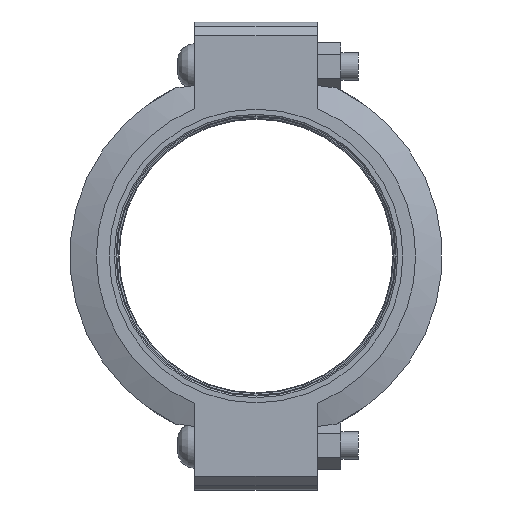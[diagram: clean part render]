
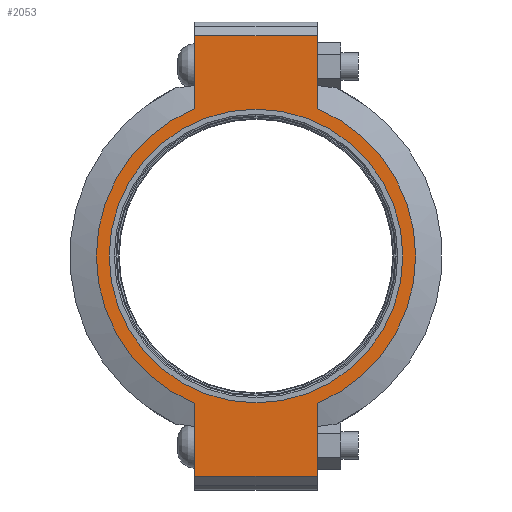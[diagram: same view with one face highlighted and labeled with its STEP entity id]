
A CAD part, left-side view. The second image highlights one B-rep face of the part: STEP entity #2053.
In plain terms, the highlighted planar face has unit normal (-1, 0, 0) as drawn and (0, 0, 1) by its records, which use the part's own axes.
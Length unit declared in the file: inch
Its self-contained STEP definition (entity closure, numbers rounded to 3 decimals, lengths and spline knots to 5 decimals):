
#162=LINE('',#3612,#255);
#173=LINE('',#3663,#266);
#179=LINE('',#3689,#272);
#181=LINE('',#3692,#274);
#182=LINE('',#3697,#275);
#183=LINE('',#3698,#276);
#255=VECTOR('',#2943,0.3937);
#266=VECTOR('',#2974,0.3937);
#272=VECTOR('',#2992,0.3937);
#274=VECTOR('',#2996,0.3937);
#275=VECTOR('',#3001,0.3937);
#276=VECTOR('',#3002,0.3937);
#339=FACE_BOUND('',#592,.T.);
#382=PLANE('',#2399);
#469=FACE_OUTER_BOUND('',#591,.T.);
#591=EDGE_LOOP('',(#1726,#1727,#1728,#1729,#1730,#1731,#1732,#1733));
#592=EDGE_LOOP('',(#1734));
#776=CIRCLE('',#2400,5.845);
#777=CIRCLE('',#2401,5.845);
#778=CIRCLE('',#2402,5.375);
#948=VERTEX_POINT('',#3609);
#949=VERTEX_POINT('',#3611);
#966=VERTEX_POINT('',#3658);
#967=VERTEX_POINT('',#3662);
#974=VERTEX_POINT('',#3684);
#975=VERTEX_POINT('',#3688);
#976=VERTEX_POINT('',#3694);
#977=VERTEX_POINT('',#3696);
#978=VERTEX_POINT('',#3700);
#1203=EDGE_CURVE('',#949,#948,#162,.T.);
#1224=EDGE_CURVE('',#967,#966,#173,.T.);
#1235=EDGE_CURVE('',#975,#974,#179,.T.);
#1237=EDGE_CURVE('',#975,#948,#181,.T.);
#1238=EDGE_CURVE('',#974,#976,#776,.T.);
#1239=EDGE_CURVE('',#976,#977,#182,.T.);
#1240=EDGE_CURVE('',#967,#977,#183,.T.);
#1241=EDGE_CURVE('',#966,#949,#777,.T.);
#1242=EDGE_CURVE('',#978,#978,#778,.T.);
#1726=ORIENTED_EDGE('',*,*,#1237,.F.);
#1727=ORIENTED_EDGE('',*,*,#1235,.T.);
#1728=ORIENTED_EDGE('',*,*,#1238,.T.);
#1729=ORIENTED_EDGE('',*,*,#1239,.T.);
#1730=ORIENTED_EDGE('',*,*,#1240,.F.);
#1731=ORIENTED_EDGE('',*,*,#1224,.T.);
#1732=ORIENTED_EDGE('',*,*,#1241,.T.);
#1733=ORIENTED_EDGE('',*,*,#1203,.T.);
#1734=ORIENTED_EDGE('',*,*,#1242,.T.);
#2053=ADVANCED_FACE('',(#469,#339),#382,.T.);
#2399=AXIS2_PLACEMENT_3D('',#3693,#2997,#2998);
#2400=AXIS2_PLACEMENT_3D('',#3695,#2999,#3000);
#2401=AXIS2_PLACEMENT_3D('',#3699,#3003,#3004);
#2402=AXIS2_PLACEMENT_3D('',#3701,#3005,#3006);
#2943=DIRECTION('',(1.,0.,0.));
#2974=DIRECTION('',(1.,0.,0.));
#2992=DIRECTION('',(-1.,0.,0.));
#2996=DIRECTION('',(0.,-1.,0.));
#2997=DIRECTION('center_axis',(0.,0.,1.));
#2998=DIRECTION('ref_axis',(-1.,0.,0.));
#2999=DIRECTION('center_axis',(0.,0.,1.));
#3000=DIRECTION('ref_axis',(1.,0.,0.));
#3001=DIRECTION('',(-1.,0.,0.));
#3002=DIRECTION('',(0.,1.,0.));
#3003=DIRECTION('center_axis',(0.,0.,1.));
#3004=DIRECTION('ref_axis',(1.,0.,0.));
#3005=DIRECTION('center_axis',(0.,0.,-1.));
#3006=DIRECTION('ref_axis',(1.,0.,0.));
#3609=CARTESIAN_POINT('',(8.065,-2.25,1.315));
#3611=CARTESIAN_POINT('',(5.39458,-2.25,1.315));
#3612=CARTESIAN_POINT('',(-8.565,-2.25,1.315));
#3658=CARTESIAN_POINT('',(-5.39458,-2.25,1.315));
#3662=CARTESIAN_POINT('',(-8.065,-2.25,1.315));
#3663=CARTESIAN_POINT('',(-8.565,-2.25,1.315));
#3684=CARTESIAN_POINT('',(5.39458,2.25,1.315));
#3688=CARTESIAN_POINT('',(8.065,2.25,1.315));
#3689=CARTESIAN_POINT('',(8.565,2.25,1.315));
#3692=CARTESIAN_POINT('',(8.065,-1.125,1.315));
#3693=CARTESIAN_POINT('Origin',(0.,0.,
1.315));
#3694=CARTESIAN_POINT('',(-5.39458,2.25,1.315));
#3695=CARTESIAN_POINT('Origin',(0.,0.,1.315));
#3696=CARTESIAN_POINT('',(-8.065,2.25,1.315));
#3697=CARTESIAN_POINT('',(8.565,2.25,1.315));
#3698=CARTESIAN_POINT('',(-8.065,1.125,1.315));
#3699=CARTESIAN_POINT('Origin',(0.,0.,1.315));
#3700=CARTESIAN_POINT('',(-5.375,0.,1.315));
#3701=CARTESIAN_POINT('Origin',(0.,0.,1.315));
